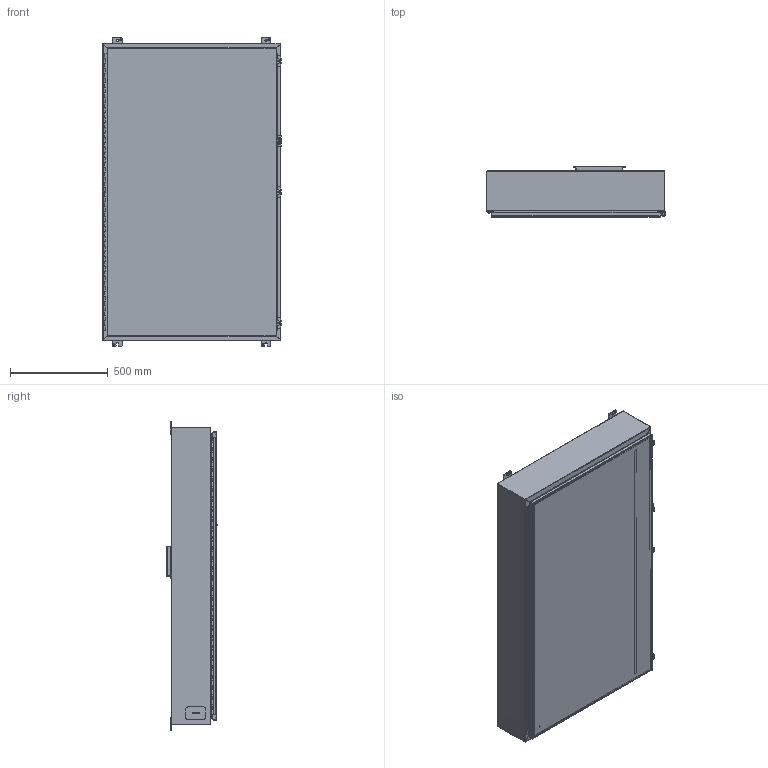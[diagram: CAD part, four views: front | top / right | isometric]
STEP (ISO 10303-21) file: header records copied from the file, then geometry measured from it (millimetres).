
FILE_DESCRIPTION(/* description */ ('Unknown'),/* implementation_level */ '2;1');
FILE_NAME(/* name */ '1418T8LP',/* time_stamp */ '2026-02-20T16:37:58-05:00',/* author */ ('Unknown'),/* organization */ ('Unknown'),/* preprocessor_version */ 'ST-DEVELOPER v18.104',/* originating_system */ 'Solid Edge',/* authorisation */ 'Unknown');
FILE_SCHEMA (('AUTOMOTIVE_DESIGN {1 0 10303 214 3 1 1}'));
Length unit declared in the file: millimetre
Products named in the file (33): 1418T8LP; STD26094; STD21878; COM42780; AKT90223; SPR20265; SCC19011; WAF25035; COM42667; COM40153-1; COM71782-6; COM40153-2; PNT11078; COM70219_oa_0; HNG10620-56C; COM53845-4; COM48450; FET07710; QLB20254; HNG10620-56B; BUL10020; QLB30109; PKT99; COM70236-1; KIT90256; LAB30005; NTS165305; NTS16535; KIT90521; WAF25059; NTS166105; HNG10620-56P
Assembly tree (49 placements, depth 3):
  1418T8LP
    STD26094  x8
    STD21878
    COM42780  x3
    AKT90223  x3
      SPR20265
      SCC19011
      WAF25035
      COM42667
    COM40153-1
    COM71782-6
      COM40153-2
      COM71782-6
      STD21878
      PNT11078
      COM70219_oa_0
      HNG10620-56C
      COM53845-4
    COM48450
    FET07710  x4
    QLB20254
    HNG10620-56B
    BUL10020
    QLB30109
    PKT99
    COM70236-1  x2
    KIT90256
      LAB30005
      NTS165305
      NTS16535
    KIT90521
      WAF25059
      NTS166105
    PNT11078
    HNG10620-56P
Bounding box: 917.58 x 257.18 x 1581.15 mm (x, y, z)
Volume: 8097950.8 mm3; surface area: 8866059.4 mm2
Topology: 47 solids, 48 shells, 1680 faces, 4383 edges, 2860 vertices
Faces by surface type: plane 1098, cylinder 439, bspline 77, torus 34, cone 30, sphere 2
Full cylindrical faces by diameter (mm): 3.175 x1, 4.763 x1, 4.976 x1, 5.41 x3, 6.198 x3, 6.35 x3, 6.731 x3, 7.137 x2, 7.805 x1, 7.938 x4, 8.382 x8, 9.525 x8, 9.906 x3, 11.113 x4, 11.303 x1, 12.7 x3, 16.51 x8, 25.4 x1, 88.9 x1
Entity records: 40258 total; most frequent: CARTESIAN_POINT 10975, ORIENTED_EDGE 6018, DIRECTION 5534, EDGE_CURVE 3009, LINE 2018, VECTOR 2018, VERTEX_POINT 1981, AXIS2_PLACEMENT_3D 1758
